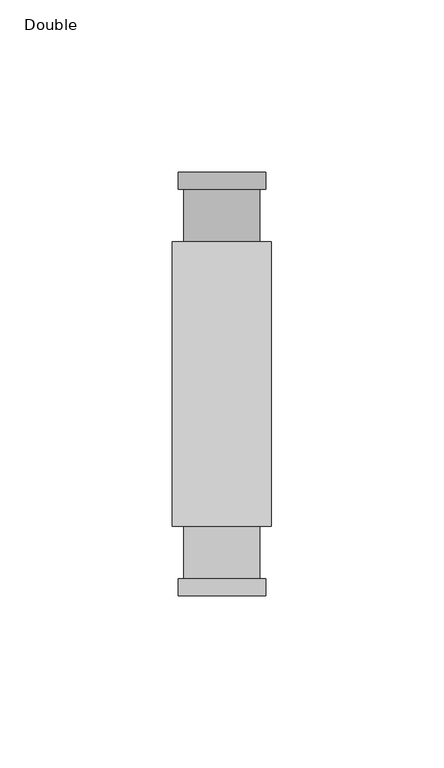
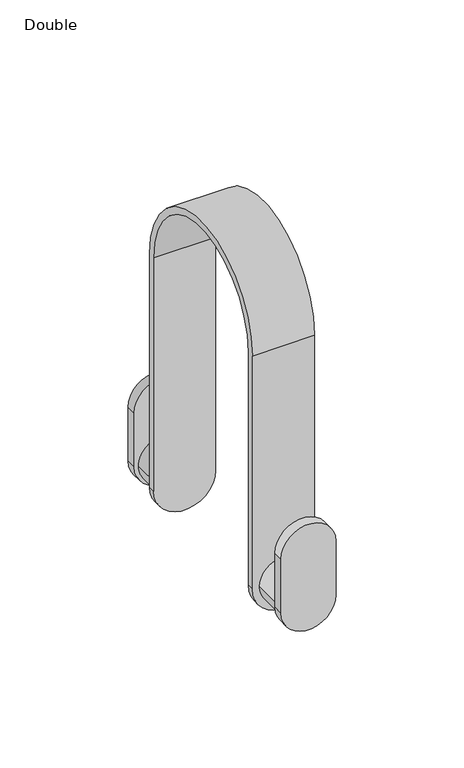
"""IFC4 building model written with IfcOpenShell, lengths in millimetres: furniture geometry, Stylex - Ambi - Coat Hook : Double."""

from ifc_helpers import new_model, si_unit, point, frame, frame_2d, origin, place, context, project, spatial, polyline, circle_curve, trimmed, segment, composite_curve, outline, extrude, source, transform, mapped, element, save
from ifc_brep_helpers import plane_surface, cylinder_surface, revolved_surface, advanced_brep


def double_d9ba1d5d(model_context):
    return source(origin(), model_context, "Body", "SolidModel", [
        extrude(outline(composite_curve([segment(polyline([(1219.2000182, 12.7046435), (1245.5277664, 12.7046435)]), True, "CONTINUOUS"), segment(trimmed(circle_curve(frame_2d((1245.5277664, 0.0)), 12.7046435), [point((1245.5277664, 12.7046435))], [point((1245.5277664, -12.7046435))], False, "CARTESIAN"), True, "CONTINUOUS"), segment(polyline([(1245.5277664, -12.7046435), (1219.2000182, -12.7046435)]), True, "CONTINUOUS"), segment(trimmed(circle_curve(frame_2d((1219.2000182, 0.0)), 12.7046435), [point((1219.2000182, -12.7046435))], [point((1219.2000182, 12.7046435))], False, "CARTESIAN"), True, "CONTINUOUS")], self_intersect=False)), frame((0.0, 56.6089034, 0.0), z_axis=(0.0, 1.0, 0.0), x_axis=(0.0, 0.0, 1.0)), (0.0, 0.0, 1.0), 4.8853849),
        extrude(outline(composite_curve([segment(trimmed(circle_curve(frame_2d((1219.2000182, 0.0)), 11.0077898), [point((1219.2000182, -11.0077898))], [point((1219.2000182, 11.0077898))], False, "CARTESIAN"), True, "CONTINUOUS"), segment(trimmed(circle_curve(frame_2d((1219.2000182, 0.0)), 11.0077898), [point((1219.2000182, 11.0077898))], [point((1219.2000182, -11.0077898))], False, "CARTESIAN"), True, "CONTINUOUS")], self_intersect=False)), frame((0.0, 41.2749818, 0.0), z_axis=(0.0, 1.0, 0.0), x_axis=(0.0, 0.0, 1.0)), (0.0, 0.0, 1.0), 15.3339216),
        extrude(outline(composite_curve([segment(polyline([(1219.2000182, 12.7046435), (1245.5277664, 12.7046435)]), True, "CONTINUOUS"), segment(trimmed(circle_curve(frame_2d((1245.5277664, 0.0)), 12.7046435), [point((1245.5277664, 12.7046435))], [point((1245.5277664, -12.7046435))], False, "CARTESIAN"), True, "CONTINUOUS"), segment(polyline([(1245.5277664, -12.7046435), (1219.2000182, -12.7046435)]), True, "CONTINUOUS"), segment(trimmed(circle_curve(frame_2d((1219.2000182, 0.0)), 12.7046435), [point((1219.2000182, -12.7046435))], [point((1219.2000182, 12.7046435))], False, "CARTESIAN"), True, "CONTINUOUS")], self_intersect=False)), frame((0.0, -61.4942883, 0.0), z_axis=(0.0, 1.0, 0.0), x_axis=(0.0, 0.0, 1.0)), (0.0, 0.0, 1.0), 4.8853849),
        extrude(outline(composite_curve([segment(trimmed(circle_curve(frame_2d((1219.2000182, 0.0)), 11.0077898), [point((1219.2000182, -11.0077898))], [point((1219.2000182, 11.0077898))], False, "CARTESIAN"), True, "CONTINUOUS"), segment(trimmed(circle_curve(frame_2d((1219.2000182, 0.0)), 11.0077898), [point((1219.2000182, 11.0077898))], [point((1219.2000182, -11.0077898))], False, "CARTESIAN"), True, "CONTINUOUS")], self_intersect=False)), frame((0.0, -56.6089034, 0.0), z_axis=(0.0, 1.0, 0.0), x_axis=(0.0, 0.0, 1.0)), (0.0, 0.0, 1.0), 15.3339216),
        advanced_brep(
        [(-14.4014972, -41.2749818, 1219.2000182), (14.4014972, -41.2749818, 1219.2000182), (14.4014972, -41.2749818, 1333.5000182), (-14.4014972, -41.2749818, 1333.5000182), (14.4014972, -38.0999818, 1219.2000182), (-14.4014972, -38.0999818, 1219.2000182), (-14.4014972, -38.0999818, 1333.5000182), (14.4014972, -38.0999818, 1333.5000182), (14.4014972, 38.0999818, 1333.5000182), (14.4014972, 38.0999818, 1219.2000182), (14.4014972, 41.2749818, 1219.2000182), (14.4014972, 41.2749818, 1333.5000182), (-14.4014972, 41.2749818, 1333.5000182), (-14.4014972, 41.2749818, 1219.2000182), (-14.4014972, 38.0999818, 1219.2000182), (-14.4014972, 38.0999818, 1333.5000182)],
        [
            (0, 1, circle_curve(frame((0.0, -41.2749818, 1219.2000182), z_axis=(0.0, -1.0, 0.0), x_axis=(1.0, 0.0, 0.0)), 14.4014972)),
            (1, 2),
            (2, 3),
            (3, 0),
            (4, 5, circle_curve(frame((0.0, -38.0999818, 1219.2000182), z_axis=(0.0, 1.0, 0.0), x_axis=(1.0, 0.0, 0.0)), 14.4014972)),
            (5, 6),
            (6, 7),
            (7, 4),
            (0, 5),
            (4, 1),
            (7, 8, circle_curve(frame((14.4014972, 0.0, 1333.5000182), z_axis=(-1.0, 0.0, 0.0), x_axis=(0.0, 1.0, 0.0)), 38.0999818)),
            (8, 9),
            (9, 10),
            (10, 11),
            (11, 2, circle_curve(frame((14.4014972, 0.0, 1333.5000182), z_axis=(1.0, 0.0, 0.0), x_axis=(0.0, 1.0, 0.0)), 41.2749818)),
            (3, 12, circle_curve(frame((-14.4014972, 0.0, 1333.5000182), z_axis=(-1.0, 0.0, 0.0), x_axis=(0.0, 1.0, 0.0)), 41.2749818)),
            (12, 13),
            (13, 14),
            (14, 15),
            (15, 6, circle_curve(frame((-14.4014972, 0.0, 1333.5000182), z_axis=(1.0, 0.0, 0.0), x_axis=(0.0, 1.0, 0.0)), 38.0999818)),
            (15, 8),
            (14, 9, circle_curve(frame((0.0, 38.0999818, 1219.2000182), z_axis=(0.0, -1.0, 0.0), x_axis=(1.0, 0.0, 0.0)), 14.4014972)),
            (10, 13, circle_curve(frame((0.0, 41.2749818, 1219.2000182), z_axis=(0.0, 1.0, 0.0), x_axis=(1.0, 0.0, 0.0)), 14.4014972)),
            (12, 11),
        ],
        [
            plane_surface(frame((-14.4014972, -41.2749818, 1219.2000182), z_axis=(0.0, -1.0, 0.0), x_axis=(-1.0, 0.0, 0.0))),
            plane_surface(frame((-14.4014972, -38.0999818, 1219.2000182), z_axis=(0.0, 1.0, 0.0), x_axis=(1.0, 0.0, 0.0))),
            cylinder_surface(frame((0.0, -38.0999818, 1219.2000182), z_axis=(0.0, -1.0, 0.0), x_axis=(1.0, 0.0, 0.0)), 14.4014972),
            plane_surface(frame((14.4014972, -38.0999818, 1333.5000182), z_axis=(1.0, 0.0, 0.0), x_axis=(0.0, 0.0, 1.0))),
            plane_surface(frame((-14.4014972, -38.0999818, 1333.5000182), z_axis=(-1.0, 0.0, 0.0), x_axis=(0.0, 0.0, -1.0))),
            revolved_surface(polyline([(-14.4014972, 38.0999818, 1333.5000182), (14.4014972, 38.0999818, 1333.5000182)]), (-14.4014972, 0.0, 1333.5000182), (-1.0, 0.0, 0.0)),
            plane_surface(frame((14.4014972, 38.0999818, 1333.5000182), z_axis=(0.0, -1.0, 0.0), x_axis=(-1.0, 0.0, 0.0))),
            plane_surface(frame((14.4014972, 41.2749818, 1219.2000182), z_axis=(0.0, 1.0, 0.0), x_axis=(-1.0, 0.0, 0.0))),
            cylinder_surface(frame((-14.4014972, 0.0, 1333.5000182), z_axis=(1.0, 0.0, 0.0), x_axis=(0.0, 1.0, 0.0)), 41.2749818),
            cylinder_surface(frame((0.0, 38.0999818, 1219.2000182), z_axis=(0.0, 1.0, 0.0), x_axis=(1.0, 0.0, 0.0)), 14.4014972),
        ],
        [
            (0, [[1, 2, 3, 4]]),
            (1, [[5, 6, 7, 8]]),
            (2, [[-1, 9, -5, 10]]),
            (3, [[-8, 11, 12, 13, 14, 15, -2, -10]]),
            (4, [[-4, 16, 17, 18, 19, 20, -6, -9]]),
            (5, [[-11, -7, -20, 21]]),
            (6, [[-12, -21, -19, 22]]),
            (7, [[-14, 23, -17, 24]]),
            (8, [[-15, -24, -16, -3]]),
            (9, [[-23, -13, -22, -18]]),
        ],
    ),
    ])


if __name__ == "__main__":
    model = new_model("IFC4")
    model_context = context("Model", 3, world=origin())
    ifc_project = project(units=[si_unit("LENGTHUNIT", "METRE", prefix="MILLI")], contexts=[model_context])
    site = spatial("IfcSite", under=ifc_project)
    building = spatial("IfcBuilding", under=site)
    placement = place(None, origin())
    double_shape = double_d9ba1d5d(model_context)
    element("IfcFurniture", 1, ObjectType="Stylex - Ambi - Coat Hook : Double", at=placement, inside=building, context=model_context, shape_type="MappedRepresentation", body=[
        mapped(double_shape, transform((0.0, 0.0, 0.0), x_axis=(1.0, 0.0, 0.0), y_axis=(0.0, 1.0, 0.0), z_axis=(0.0, 0.0, 1.0))),
    ])
    save(model, "model.ifc")
